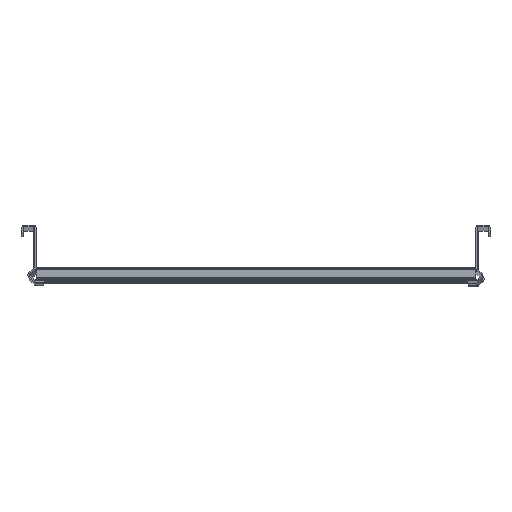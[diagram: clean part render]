
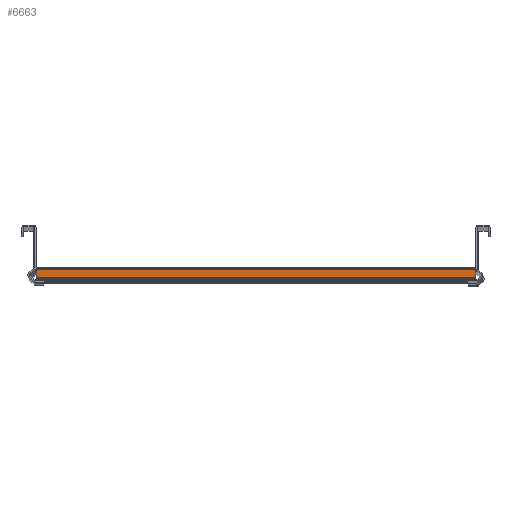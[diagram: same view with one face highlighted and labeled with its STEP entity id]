
A CAD part, top view. The second image highlights one B-rep face of the part: STEP entity #6663.
In plain terms, the highlighted planar face has unit normal (0, 0, 1) as drawn and (-1, 0, 0) by its records, which use the part's own axes.
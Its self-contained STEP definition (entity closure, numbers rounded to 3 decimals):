
#13 = DIRECTION ( 'NONE',  ( 0., 0., -1. ) ) ;
#98 = DIRECTION ( 'NONE',  ( 0., -1., 0. ) ) ;
#178 = CARTESIAN_POINT ( 'NONE',  ( -17.5, 11.5, 250. ) ) ;
#535 = CARTESIAN_POINT ( 'NONE',  ( -17.5, 14., 250. ) ) ;
#866 = ORIENTED_EDGE ( 'NONE', *, *, #4996, .T. ) ;
#872 = VECTOR ( 'NONE', #5837, 1000. ) ;
#937 = EDGE_CURVE ( 'NONE', #5905, #4576, #3762, .T. ) ;
#1103 = VECTOR ( 'NONE', #13, 1000. ) ;
#1362 = LINE ( 'NONE', #4905, #5798 ) ;
#1567 = CARTESIAN_POINT ( 'NONE',  ( -17.5, 2.5, 250. ) ) ;
#1575 = CARTESIAN_POINT ( 'NONE',  ( -17.5, 14., -250. ) ) ;
#1831 = VERTEX_POINT ( 'NONE', #3565 ) ;
#2394 = DIRECTION ( 'NONE',  ( 0., 0., -1. ) ) ;
#3412 = EDGE_CURVE ( 'NONE', #4576, #1831, #1362, .T. ) ;
#3416 = CARTESIAN_POINT ( 'NONE',  ( -17.5, 11.5, -250. ) ) ;
#3565 = CARTESIAN_POINT ( 'NONE',  ( -17.5, 2.5, -250. ) ) ;
#3581 = DIRECTION ( 'NONE',  ( 0., 0., -1. ) ) ;
#3582 = AXIS2_PLACEMENT_3D ( 'NONE', #535, #5176, #3581 ) ;
#3762 = LINE ( 'NONE', #4744, #6345 ) ;
#4129 = PLANE ( 'NONE',  #3582 ) ;
#4161 = EDGE_CURVE ( 'NONE', #5544, #1831, #6212, .T. ) ;
#4576 = VERTEX_POINT ( 'NONE', #1567 ) ;
#4744 = CARTESIAN_POINT ( 'NONE',  ( -17.5, 14., 250. ) ) ;
#4905 = CARTESIAN_POINT ( 'NONE',  ( -17.5, 2.5, 250. ) ) ;
#4996 = EDGE_CURVE ( 'NONE', #5905, #5544, #5523, .T. ) ;
#5141 = CARTESIAN_POINT ( 'NONE',  ( -17.5, 11.5, 250. ) ) ;
#5162 = ORIENTED_EDGE ( 'NONE', *, *, #3412, .F. ) ;
#5176 = DIRECTION ( 'NONE',  ( 1., 0., 0. ) ) ;
#5523 = LINE ( 'NONE', #5141, #1103 ) ;
#5544 = VERTEX_POINT ( 'NONE', #3416 ) ;
#5580 = ORIENTED_EDGE ( 'NONE', *, *, #4161, .T. ) ;
#5714 = FACE_OUTER_BOUND ( 'NONE', #6692, .T. ) ;
#5798 = VECTOR ( 'NONE', #2394, 1000. ) ;
#5837 = DIRECTION ( 'NONE',  ( 0., -1., 0. ) ) ;
#5905 = VERTEX_POINT ( 'NONE', #178 ) ;
#6212 = LINE ( 'NONE', #1575, #872 ) ;
#6345 = VECTOR ( 'NONE', #98, 1000. ) ;
#6663 = ADVANCED_FACE ( 'NONE', ( #5714 ), #4129, .F. ) ;
#6692 = EDGE_LOOP ( 'NONE', ( #5580, #5162, #6697, #866 ) ) ;
#6697 = ORIENTED_EDGE ( 'NONE', *, *, #937, .F. ) ;
